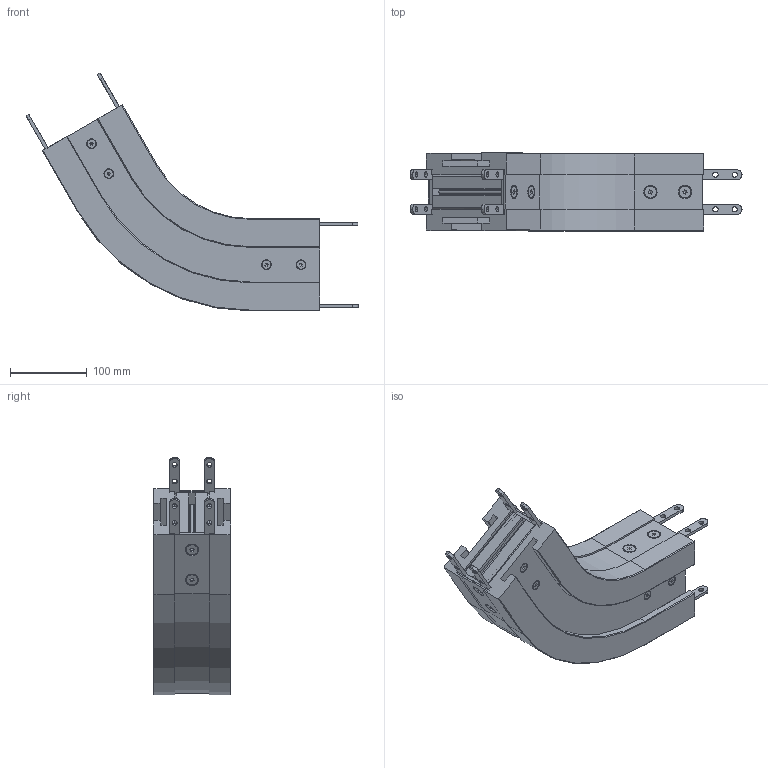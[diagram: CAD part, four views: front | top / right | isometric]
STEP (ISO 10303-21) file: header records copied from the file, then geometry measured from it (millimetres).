
FILE_DESCRIPTION (( 'STEP AP203' ), '1' );
FILE_NAME ('2000.450.460.STEP', '2015-04-15T13:07:38', ( '' ), ( '' ), 'SwSTEP 2.0', 'SolidWorks 2012', '' );
FILE_SCHEMA (( 'CONFIG_CONTROL_DESIGN' ));
Length unit declared in the file: millimetre
Products named in the file (1): 2000.450.460
Bounding box: 431.27 x 101 x 308.99 mm (x, y, z)
Volume: 2217967.2 mm3; surface area: 679629.5 mm2
Topology: 26 solids, 26 shells, 2506 faces, 6586 edges, 4116 vertices
Faces by surface type: cone 1084, cylinder 814, plane 576, torus 32
Entity records: 77845 total; most frequent: DIRECTION 14872, CARTESIAN_POINT 13177, ORIENTED_EDGE 13108, EDGE_CURVE 6554, AXIS2_PLACEMENT_3D 5811, VERTEX_POINT 4116, CIRCLE 3304, LINE 3250
